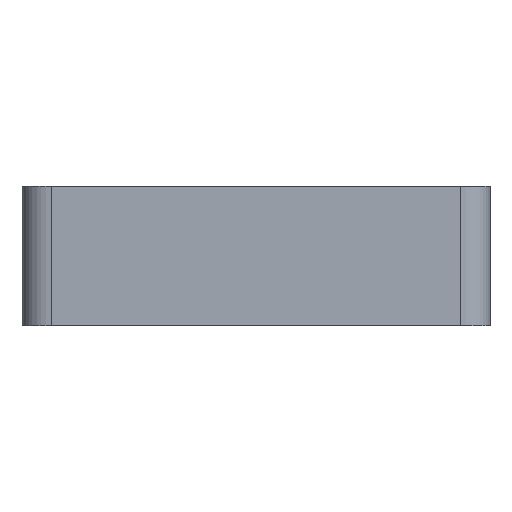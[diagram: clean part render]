
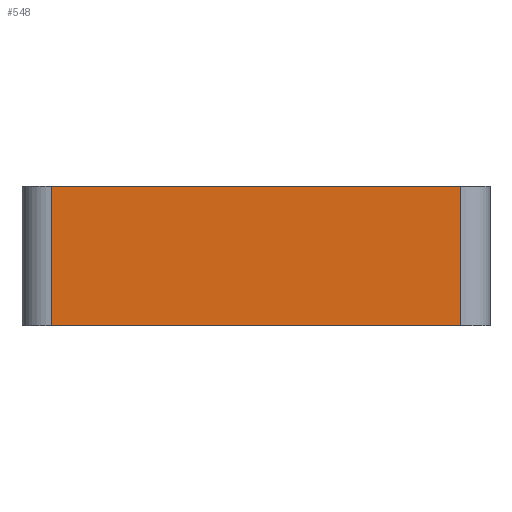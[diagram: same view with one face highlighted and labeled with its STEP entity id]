
A CAD part, front view. The second image highlights one B-rep face of the part: STEP entity #548.
In plain terms, the highlighted planar face has unit normal (0, -1, 0).
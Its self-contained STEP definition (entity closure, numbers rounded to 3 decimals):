
#25=PLANE('',#605);
#56=FACE_OUTER_BOUND('',#85,.T.);
#85=EDGE_LOOP('',(#401,#402,#403,#404));
#121=LINE('',#845,#171);
#123=LINE('',#851,#173);
#124=LINE('',#853,#174);
#125=LINE('',#854,#175);
#171=VECTOR('',#678,10.);
#173=VECTOR('',#684,10.);
#174=VECTOR('',#685,10.);
#175=VECTOR('',#686,10.);
#256=VERTEX_POINT('',#842);
#257=VERTEX_POINT('',#844);
#259=VERTEX_POINT('',#850);
#260=VERTEX_POINT('',#852);
#312=EDGE_CURVE('',#256,#257,#121,.T.);
#315=EDGE_CURVE('',#259,#256,#123,.T.);
#316=EDGE_CURVE('',#260,#259,#124,.T.);
#317=EDGE_CURVE('',#257,#260,#125,.T.);
#401=ORIENTED_EDGE('',*,*,#312,.F.);
#402=ORIENTED_EDGE('',*,*,#315,.F.);
#403=ORIENTED_EDGE('',*,*,#316,.F.);
#404=ORIENTED_EDGE('',*,*,#317,.F.);
#548=ADVANCED_FACE('',(#56),#25,.T.);
#605=AXIS2_PLACEMENT_3D('',#849,#682,#683);
#678=DIRECTION('',(0.,0.,-1.));
#682=DIRECTION('center_axis',(0.,-1.,0.));
#683=DIRECTION('ref_axis',(1.,0.,0.));
#684=DIRECTION('',(1.,0.,0.));
#685=DIRECTION('',(0.,0.,1.));
#686=DIRECTION('',(-1.,0.,0.));
#842=CARTESIAN_POINT('',(14.,65.75,29.275));
#844=CARTESIAN_POINT('',(14.,65.75,19.75));
#845=CARTESIAN_POINT('',(14.,65.75,19.75));
#849=CARTESIAN_POINT('Origin',(-16.,65.75,19.75));
#850=CARTESIAN_POINT('',(-14.,65.75,29.275));
#851=CARTESIAN_POINT('',(16.,65.75,29.275));
#852=CARTESIAN_POINT('',(-14.,65.75,19.75));
#853=CARTESIAN_POINT('',(-14.,65.75,19.75));
#854=CARTESIAN_POINT('',(16.,65.75,19.75));
